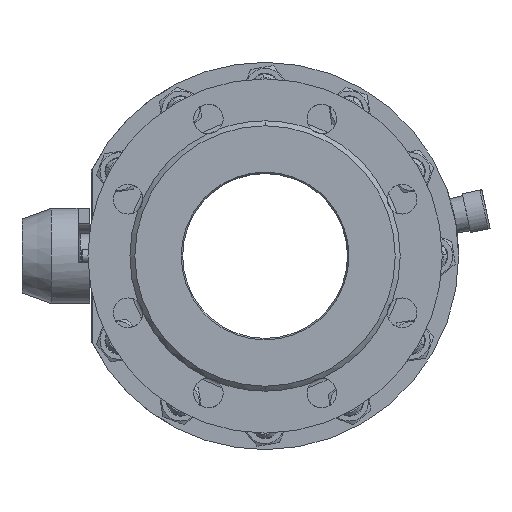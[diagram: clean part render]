
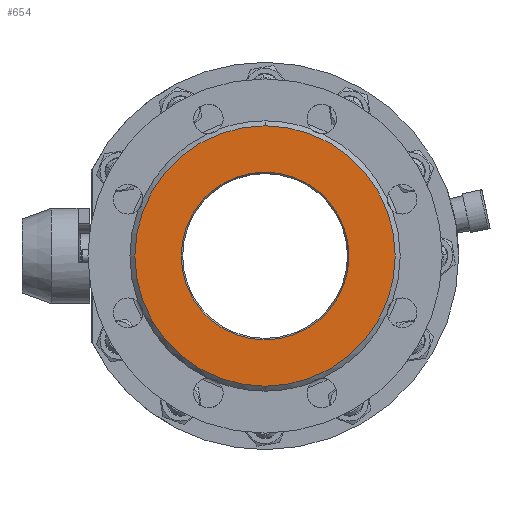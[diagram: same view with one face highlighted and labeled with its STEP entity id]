
A CAD part, left-side view. The second image highlights one B-rep face of the part: STEP entity #654.
In plain terms, the highlighted planar face has unit normal (-1, 0, 0).
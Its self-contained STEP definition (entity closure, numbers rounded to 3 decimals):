
#654=ADVANCED_FACE('',(#4029,#4031),#4033,.T.);
#4029=FACE_BOUND('',#4030,.T.);
#4030=EDGE_LOOP('',(#9946,#9947));
#4031=FACE_OUTER_BOUND('',#4032,.T.);
#4032=EDGE_LOOP('',(#9948,#9949));
#4033=PLANE('',#4034);
#4034=AXIS2_PLACEMENT_3D('',#4035,#4036,#4037);
#4035=CARTESIAN_POINT('',(-115.,0.,0.));
#4036=DIRECTION('',(-1.,0.,-0.));
#4037=DIRECTION('',(0.,0.,-1.));
#9946=ORIENTED_EDGE('',*,*,#13479,.T.);
#9947=ORIENTED_EDGE('',*,*,#13638,.T.);
#9948=ORIENTED_EDGE('',*,*,#13639,.T.);
#9949=ORIENTED_EDGE('',*,*,#13576,.T.);
#13479=EDGE_CURVE('',#15927,#15925,#15928,.T.);
#13576=EDGE_CURVE('',#16115,#16116,#16117,.T.);
#13638=EDGE_CURVE('',#15925,#15927,#16199,.T.);
#13639=EDGE_CURVE('',#16116,#16115,#16200,.T.);
#15925=VERTEX_POINT('',#22842);
#15927=VERTEX_POINT('',#22846);
#15928=CIRCLE('',#22847,50.896);
#16115=VERTEX_POINT('',#23429);
#16116=VERTEX_POINT('',#23430);
#16117=CIRCLE('',#23431,79.);
#16199=CIRCLE('',#23691,50.896);
#16200=CIRCLE('',#23695,79.);
#22842=CARTESIAN_POINT('',(-115.,0.,50.896));
#22846=CARTESIAN_POINT('',(-115.,0.,-50.896));
#22847=AXIS2_PLACEMENT_3D('',#22848,#22849,#22850);
#22848=CARTESIAN_POINT('',(-115.,0.,0.));
#22849=DIRECTION('',(1.,0.,0.));
#22850=DIRECTION('',(0.,0.,-1.));
#23429=CARTESIAN_POINT('',(-115.,0.,-79.));
#23430=CARTESIAN_POINT('',(-115.,0.,79.));
#23431=AXIS2_PLACEMENT_3D('',#23432,#23433,#23434);
#23432=CARTESIAN_POINT('',(-115.,0.,0.));
#23433=DIRECTION('',(-1.,0.,-0.));
#23434=DIRECTION('',(0.,0.,-1.));
#23691=AXIS2_PLACEMENT_3D('',#23692,#23693,#23694);
#23692=CARTESIAN_POINT('',(-115.,0.,0.));
#23693=DIRECTION('',(1.,0.,0.));
#23694=DIRECTION('',(0.,0.,1.));
#23695=AXIS2_PLACEMENT_3D('',#23696,#23697,#23698);
#23696=CARTESIAN_POINT('',(-115.,0.,0.));
#23697=DIRECTION('',(-1.,0.,-0.));
#23698=DIRECTION('',(0.,0.,1.));
